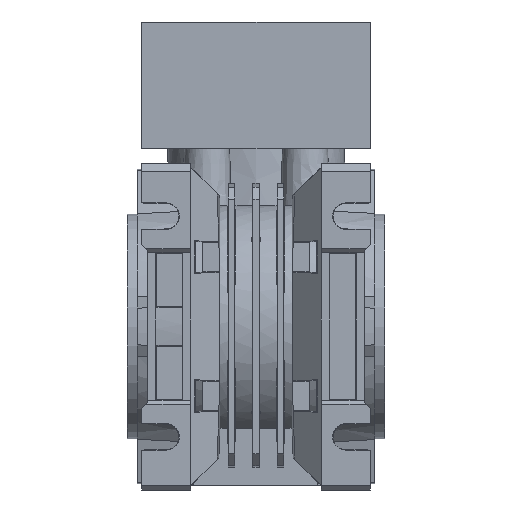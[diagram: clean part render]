
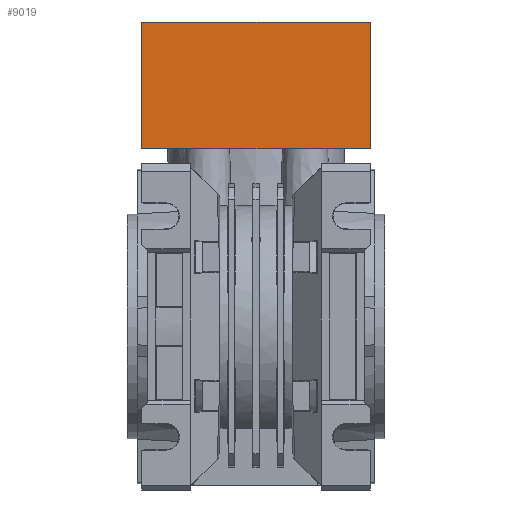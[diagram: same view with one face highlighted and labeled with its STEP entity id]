
A CAD part, front view. The second image highlights one B-rep face of the part: STEP entity #9019.
In plain terms, the highlighted planar face has unit normal (0, -1, 0) as drawn and (0, 1, 0) by its records, which use the part's own axes.
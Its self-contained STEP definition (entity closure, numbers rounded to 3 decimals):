
#270 = CARTESIAN_POINT ( 'NONE',  ( 34., 28., 28. ) ) ;
#544 = VECTOR ( 'NONE', #761, 1000. ) ;
#761 = DIRECTION ( 'NONE',  ( 0., 0., 1. ) ) ;
#829 = AXIS2_PLACEMENT_3D ( 'NONE', #3801, #9598, #23091 ) ;
#1445 = VERTEX_POINT ( 'NONE', #14567 ) ;
#2687 = CARTESIAN_POINT ( 'NONE',  ( 34., 28., -28. ) ) ;
#2711 = LINE ( 'NONE', #2687, #21382 ) ;
#2773 = DIRECTION ( 'NONE',  ( -1., 0., 0. ) ) ;
#3330 = EDGE_CURVE ( 'NONE', #23077, #22496, #25041, .T. ) ;
#3801 = CARTESIAN_POINT ( 'NONE',  ( 34., 28., -40.545 ) ) ;
#4691 = EDGE_CURVE ( 'NONE', #1445, #22496, #16796, .T. ) ;
#5130 = VECTOR ( 'NONE', #17538, 1000. ) ;
#7073 = EDGE_CURVE ( 'NONE', #7850, #23077, #25030, .T. ) ;
#7850 = VERTEX_POINT ( 'NONE', #20543 ) ;
#9019 = ADVANCED_FACE ( 'NONE', ( #9182 ), #19180, .F. ) ;
#9182 = FACE_OUTER_BOUND ( 'NONE', #19933, .T. ) ;
#9598 = DIRECTION ( 'NONE',  ( 0., -1., 0. ) ) ;
#10826 = ORIENTED_EDGE ( 'NONE', *, *, #18299, .T. ) ;
#11682 = VECTOR ( 'NONE', #16445, 1000. ) ;
#13476 = ORIENTED_EDGE ( 'NONE', *, *, #7073, .T. ) ;
#14567 = CARTESIAN_POINT ( 'NONE',  ( 34., 28., -28. ) ) ;
#14949 = ORIENTED_EDGE ( 'NONE', *, *, #4691, .F. ) ;
#16445 = DIRECTION ( 'NONE',  ( 0., 0., 1. ) ) ;
#16796 = LINE ( 'NONE', #24181, #11682 ) ;
#17538 = DIRECTION ( 'NONE',  ( 1., 0., 0. ) ) ;
#18299 = EDGE_CURVE ( 'NONE', #1445, #7850, #2711, .T. ) ;
#19180 = PLANE ( 'NONE',  #829 ) ;
#19300 = CARTESIAN_POINT ( 'NONE',  ( 3., 28., 28. ) ) ;
#19933 = EDGE_LOOP ( 'NONE', ( #14949, #10826, #13476, #22990 ) ) ;
#20543 = CARTESIAN_POINT ( 'NONE',  ( 3., 28., -28. ) ) ;
#20843 = CARTESIAN_POINT ( 'NONE',  ( 34., 28., 28. ) ) ;
#21382 = VECTOR ( 'NONE', #2773, 1000. ) ;
#22496 = VERTEX_POINT ( 'NONE', #20843 ) ;
#22990 = ORIENTED_EDGE ( 'NONE', *, *, #3330, .T. ) ;
#23077 = VERTEX_POINT ( 'NONE', #19300 ) ;
#23091 = DIRECTION ( 'NONE',  ( 0., 0., -1. ) ) ;
#23888 = CARTESIAN_POINT ( 'NONE',  ( 3., 28., -40.545 ) ) ;
#24181 = CARTESIAN_POINT ( 'NONE',  ( 34., 28., 0. ) ) ;
#25030 = LINE ( 'NONE', #23888, #544 ) ;
#25041 = LINE ( 'NONE', #270, #5130 ) ;
